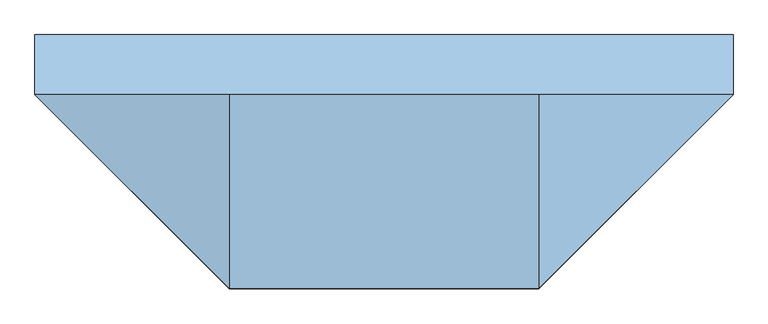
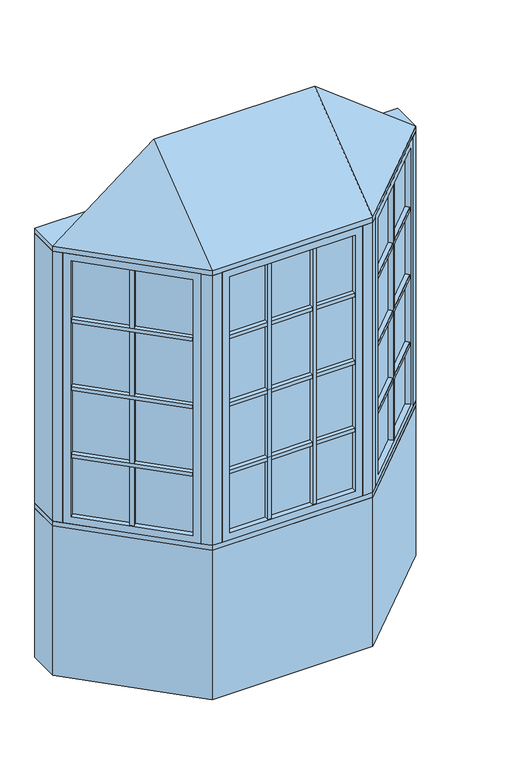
"""IFC4 building model written with IfcOpenShell, lengths in millimetres: window geometry, Pollard_Windows_Tudor Casement Bows and Bays : AML-BAY 45 AFR0514-08-600_GC."""

from ifc_helpers import new_model, si_unit, frame, origin, origin_with_axes, place, context, project, spatial, polyline, outline, extrude, faceted_brep, source, transform, mapped, element, save


def window_17699709(model_context):
    return source(origin(), model_context, "Body", "SolidModel", [
        extrude(outline(polyline([(453.0114193, -506.9608753), (437.4550701, -491.4045261), (815.116171, -113.7434252), (830.6725202, -129.2997743), (453.0114193, -506.9608753)])), frame((0.0, 0.0, 1490.998), z_axis=(0.0, 0.0, 1.0), x_axis=(1.0, 0.0, 0.0)), (0.0, 0.0, 1.0), 18.0),
        extrude(outline(polyline([(433.8629677, -487.8124236), (418.3066185, -472.2560744), (795.9677194, -94.5949735), (811.5240686, -110.1513227), (433.8629677, -487.8124236)])), frame((0.0, 0.0, 1490.998), z_axis=(0.0, 0.0, 1.0), x_axis=(1.0, 0.0, 0.0)), (0.0, 0.0, 1.0), 18.0),
        extrude(outline(polyline([(453.0114193, -506.9608753), (437.4550701, -491.4045261), (815.116171, -113.7434252), (830.6725202, -129.2997743), (453.0114193, -506.9608753)])), frame((0.0, 0.0, 1140.998), z_axis=(0.0, 0.0, 1.0), x_axis=(1.0, 0.0, 0.0)), (0.0, 0.0, 1.0), 18.0),
        extrude(outline(polyline([(433.8629677, -487.8124236), (418.3066185, -472.2560744), (795.9677194, -94.5949735), (811.5240686, -110.1513227), (433.8629677, -487.8124236)])), frame((0.0, 0.0, 1140.998), z_axis=(0.0, 0.0, 1.0), x_axis=(1.0, 0.0, 0.0)), (0.0, 0.0, 1.0), 18.0),
        extrude(outline(polyline([(453.0114193, -506.9608753), (437.4550701, -491.4045261), (815.116171, -113.7434252), (830.6725202, -129.2997743), (453.0114193, -506.9608753)])), frame((0.0, 0.0, 1490.998), z_axis=(0.0, 0.0, 1.0), x_axis=(1.0, 0.0, 0.0)), (0.0, 0.0, 1.0), 18.0),
        extrude(outline(polyline([(433.8629677, -487.8124236), (418.3066185, -472.2560744), (795.9677194, -94.5949735), (811.5240686, -110.1513227), (433.8629677, -487.8124236)])), frame((0.0, 0.0, 1490.998), z_axis=(0.0, 0.0, 1.0), x_axis=(1.0, 0.0, 0.0)), (0.0, 0.0, 1.0), 18.0),
        extrude(outline(polyline([(453.0114193, -506.9608753), (437.4550701, -491.4045261), (815.116171, -113.7434252), (830.6725202, -129.2997743), (453.0114193, -506.9608753)])), frame((0.0, 0.0, 1490.998), z_axis=(0.0, 0.0, 1.0), x_axis=(1.0, 0.0, 0.0)), (0.0, 0.0, 1.0), 18.0),
        extrude(outline(polyline([(433.8629677, -487.8124236), (418.3066185, -472.2560744), (795.9677194, -94.5949735), (811.5240686, -110.1513227), (433.8629677, -487.8124236)])), frame((0.0, 0.0, 1490.998), z_axis=(0.0, 0.0, 1.0), x_axis=(1.0, 0.0, 0.0)), (0.0, 0.0, 1.0), 18.0),
        extrude(outline(polyline([(453.0114193, -506.9608753), (437.4550701, -491.4045261), (815.116171, -113.7434252), (830.6725202, -129.2997743), (453.0114193, -506.9608753)])), frame((0.0, 0.0, 1840.998), z_axis=(0.0, 0.0, 1.0), x_axis=(1.0, 0.0, 0.0)), (0.0, 0.0, 1.0), 18.0),
        extrude(outline(polyline([(433.8629677, -487.8124236), (418.3066185, -472.2560744), (795.9677194, -94.5949735), (811.5240686, -110.1513227), (433.8629677, -487.8124236)])), frame((0.0, 0.0, 1840.998), z_axis=(0.0, 0.0, 1.0), x_axis=(1.0, 0.0, 0.0)), (0.0, 0.0, 1.0), 18.0),
        extrude(outline(polyline([(632.6495816, -296.2100146), (648.2059308, -311.7663638), (635.4780087, -324.4942858), (619.9216595, -308.9379366), (632.6495816, -296.2100146)])), frame((0.0, 0.0, 835.8628), z_axis=(0.0, 0.0, 1.0), x_axis=(1.0, 0.0, 0.0)), (0.0, 0.0, 1.0), 1328.2704),
        extrude(outline(polyline([(629.0574791, -292.6179121), (616.3295571, -305.3458342), (600.7732079, -289.789485), (613.50113, -277.0615629), (629.0574791, -292.6179121)])), frame((0.0, 0.0, 835.8628), z_axis=(0.0, 0.0, 1.0), x_axis=(1.0, 0.0, 0.0)), (0.0, 0.0, 1.0), 1328.2704),
        extrude(outline(polyline([(824.0964271, -104.763169), (428.474814, -500.3847822), (424.8827115, -496.7926797), (820.5043247, -101.1710666), (824.0964271, -104.763169)])), frame((0.0, 0.0, 823.1628), z_axis=(0.0, 0.0, 1.0), x_axis=(1.0, 0.0, 0.0)), (0.0, 0.0, 1.0), 1353.6704),
        faceted_brep([(815.116171, -113.7434252, 835.8628), (833.0766833, -131.7039374, 835.8628), (833.0766833, -131.7039374, 2164.1332), (815.116171, -113.7434252, 2164.1332), (820.5043247, -101.1710666, 823.1628), (824.0964271, -104.763169, 823.1628), (824.0964271, -104.763169, 2176.8332), (820.5043247, -101.1710666, 2176.8332), (793.5635563, -92.1908105, 835.8628), (811.5240686, -110.1513227, 835.8628), (811.5240686, -110.1513227, 2164.1332), (793.5635563, -92.1908105, 2164.1332), (858.4369265, -106.3436941, 799.998), (818.9237996, -66.8305672, 799.998), (818.9237996, -66.8305672, 2199.998), (858.4369265, -106.3436941, 2199.998), (455.4155823, -509.3650383, 2164.1332), (437.4550701, -491.4045261, 2164.1332), (428.474814, -500.3847822, 2176.8332), (424.8827115, -496.7926797, 2176.8332), (433.8629677, -487.8124236, 2164.1332), (415.9024554, -469.8519114, 2164.1332), (390.5422121, -495.2121547, 2199.998), (430.0553391, -534.7252816, 2199.998), (455.4155823, -509.3650383, 835.8628), (437.4550701, -491.4045261, 835.8628), (428.474814, -500.3847822, 823.1628), (424.8827115, -496.7926797, 823.1628), (433.8629677, -487.8124236, 835.8628), (415.9024554, -469.8519114, 835.8628), (390.5422121, -495.2121547, 799.998), (430.0553391, -534.7252816, 799.998)], [[[0, 1, 2, 3]], [[4, 5, 6, 7]], [[8, 9, 10, 11]], [[12, 13, 14, 15]], [[3, 2, 16, 17]], [[7, 6, 18, 19]], [[11, 10, 20, 21]], [[15, 14, 22, 23]], [[17, 16, 24, 25]], [[19, 18, 26, 27]], [[21, 20, 28, 29]], [[23, 22, 30, 31]], [[25, 24, 1, 0]], [[5, 26, 18, 6], [3, 17, 25, 0]], [[27, 26, 5, 4]], [[7, 19, 27, 4], [9, 28, 20, 10]], [[29, 28, 9, 8]], [[13, 30, 22, 14], [11, 21, 29, 8]], [[31, 30, 13, 12]], [[15, 23, 31, 12], [1, 24, 16, 2]]]),
        extrude(outline(polyline([(119.1785333, -544.6806207), (119.1785333, -566.6806207), (101.1785333, -566.6806207), (101.1785333, -544.6806207), (119.1785333, -544.6806207)])), frame((0.0, 0.0, 835.8628), z_axis=(0.0, 0.0, 1.0), x_axis=(1.0, 0.0, 0.0)), (0.0, 0.0, 1.0), 1328.2704),
        extrude(outline(polyline([(119.1785333, -539.6006207), (101.1785333, -539.6006207), (101.1785333, -517.6006207), (119.1785333, -517.6006207), (119.1785333, -539.6006207)])), frame((0.0, 0.0, 835.8628), z_axis=(0.0, 0.0, 1.0), x_axis=(1.0, 0.0, 0.0)), (0.0, 0.0, 1.0), 1328.2704),
        extrude(outline(polyline([(-101.1785333, -544.6806207), (-101.1785333, -566.6806207), (-119.1785333, -566.6806207), (-119.1785333, -544.6806207), (-101.1785333, -544.6806207)])), frame((0.0, 0.0, 835.8628), z_axis=(0.0, 0.0, 1.0), x_axis=(1.0, 0.0, 0.0)), (0.0, 0.0, 1.0), 1328.2704),
        extrude(outline(polyline([(-101.1785333, -539.6006207), (-119.1785333, -539.6006207), (-119.1785333, -517.6006207), (-101.1785333, -517.6006207), (-101.1785333, -539.6006207)])), frame((0.0, 0.0, 835.8628), z_axis=(0.0, 0.0, 1.0), x_axis=(1.0, 0.0, 0.0)), (0.0, 0.0, 1.0), 1328.2704),
        extrude(outline(polyline([(-308.8352, -566.6806207), (-308.8352, -544.6806207), (308.8352, -544.6806207), (308.8352, -566.6806207), (-308.8352, -566.6806207)])), frame((0.0, 0.0, 1140.998), z_axis=(0.0, 0.0, 1.0), x_axis=(1.0, 0.0, 0.0)), (0.0, 0.0, 1.0), 18.0),
        extrude(outline(polyline([(-308.8352, -539.6006207), (-308.8352, -517.6006207), (308.8352, -517.6006207), (308.8352, -539.6006207), (-308.8352, -539.6006207)])), frame((0.0, 0.0, 1140.998), z_axis=(0.0, 0.0, 1.0), x_axis=(1.0, 0.0, 0.0)), (0.0, 0.0, 1.0), 18.0),
        extrude(outline(polyline([(-308.8352, -566.6806207), (-308.8352, -544.6806207), (308.8352, -544.6806207), (308.8352, -566.6806207), (-308.8352, -566.6806207)])), frame((0.0, 0.0, 1490.998), z_axis=(0.0, 0.0, 1.0), x_axis=(1.0, 0.0, 0.0)), (0.0, 0.0, 1.0), 18.0),
        extrude(outline(polyline([(-308.8352, -539.6006207), (-308.8352, -517.6006207), (308.8352, -517.6006207), (308.8352, -539.6006207), (-308.8352, -539.6006207)])), frame((0.0, 0.0, 1490.998), z_axis=(0.0, 0.0, 1.0), x_axis=(1.0, 0.0, 0.0)), (0.0, 0.0, 1.0), 18.0),
        extrude(outline(polyline([(-308.8352, -566.6806207), (-308.8352, -544.6806207), (308.8352, -544.6806207), (308.8352, -566.6806207), (-308.8352, -566.6806207)])), frame((0.0, 0.0, 1490.998), z_axis=(0.0, 0.0, 1.0), x_axis=(1.0, 0.0, 0.0)), (0.0, 0.0, 1.0), 18.0),
        extrude(outline(polyline([(-308.8352, -539.6006207), (-308.8352, -517.6006207), (308.8352, -517.6006207), (308.8352, -539.6006207), (-308.8352, -539.6006207)])), frame((0.0, 0.0, 1490.998), z_axis=(0.0, 0.0, 1.0), x_axis=(1.0, 0.0, 0.0)), (0.0, 0.0, 1.0), 18.0),
        extrude(outline(polyline([(-308.8352, -566.6806207), (-308.8352, -544.6806207), (308.8352, -544.6806207), (308.8352, -566.6806207), (-308.8352, -566.6806207)])), frame((0.0, 0.0, 1490.998), z_axis=(0.0, 0.0, 1.0), x_axis=(1.0, 0.0, 0.0)), (0.0, 0.0, 1.0), 18.0),
        extrude(outline(polyline([(-308.8352, -539.6006207), (-308.8352, -517.6006207), (308.8352, -517.6006207), (308.8352, -539.6006207), (-308.8352, -539.6006207)])), frame((0.0, 0.0, 1490.998), z_axis=(0.0, 0.0, 1.0), x_axis=(1.0, 0.0, 0.0)), (0.0, 0.0, 1.0), 18.0),
        extrude(outline(polyline([(-830.6725202, -129.2997743), (-815.116171, -113.7434252), (-437.4550701, -491.4045261), (-453.0114193, -506.9608753), (-830.6725202, -129.2997743)])), frame((0.0, 0.0, 1140.998), z_axis=(0.0, 0.0, 1.0), x_axis=(1.0, 0.0, 0.0)), (0.0, 0.0, 1.0), 18.0),
        extrude(outline(polyline([(-811.5240686, -110.1513227), (-795.9677194, -94.5949735), (-418.3066185, -472.2560744), (-433.8629677, -487.8124236), (-811.5240686, -110.1513227)])), frame((0.0, 0.0, 1140.998), z_axis=(0.0, 0.0, 1.0), x_axis=(1.0, 0.0, 0.0)), (0.0, 0.0, 1.0), 18.0),
        extrude(outline(polyline([(-830.6725202, -129.2997743), (-815.116171, -113.7434252), (-437.4550701, -491.4045261), (-453.0114193, -506.9608753), (-830.6725202, -129.2997743)])), frame((0.0, 0.0, 1490.998), z_axis=(0.0, 0.0, 1.0), x_axis=(1.0, 0.0, 0.0)), (0.0, 0.0, 1.0), 18.0),
        extrude(outline(polyline([(-811.5240686, -110.1513227), (-795.9677194, -94.5949735), (-418.3066185, -472.2560744), (-433.8629677, -487.8124236), (-811.5240686, -110.1513227)])), frame((0.0, 0.0, 1490.998), z_axis=(0.0, 0.0, 1.0), x_axis=(1.0, 0.0, 0.0)), (0.0, 0.0, 1.0), 18.0),
        extrude(outline(polyline([(-830.6725202, -129.2997743), (-815.116171, -113.7434252), (-437.4550701, -491.4045261), (-453.0114193, -506.9608753), (-830.6725202, -129.2997743)])), frame((0.0, 0.0, 1490.998), z_axis=(0.0, 0.0, 1.0), x_axis=(1.0, 0.0, 0.0)), (0.0, 0.0, 1.0), 18.0),
        extrude(outline(polyline([(-811.5240686, -110.1513227), (-795.9677194, -94.5949735), (-418.3066185, -472.2560744), (-433.8629677, -487.8124236), (-811.5240686, -110.1513227)])), frame((0.0, 0.0, 1490.998), z_axis=(0.0, 0.0, 1.0), x_axis=(1.0, 0.0, 0.0)), (0.0, 0.0, 1.0), 18.0),
        extrude(outline(polyline([(-830.6725202, -129.2997743), (-815.116171, -113.7434252), (-437.4550701, -491.4045261), (-453.0114193, -506.9608753), (-830.6725202, -129.2997743)])), frame((0.0, 0.0, 1490.998), z_axis=(0.0, 0.0, 1.0), x_axis=(1.0, 0.0, 0.0)), (0.0, 0.0, 1.0), 18.0),
        extrude(outline(polyline([(-811.5240686, -110.1513227), (-795.9677194, -94.5949735), (-418.3066185, -472.2560744), (-433.8629677, -487.8124236), (-811.5240686, -110.1513227)])), frame((0.0, 0.0, 1490.998), z_axis=(0.0, 0.0, 1.0), x_axis=(1.0, 0.0, 0.0)), (0.0, 0.0, 1.0), 18.0),
        extrude(outline(polyline([(-830.6725202, -129.2997743), (-815.116171, -113.7434252), (-437.4550701, -491.4045261), (-453.0114193, -506.9608753), (-830.6725202, -129.2997743)])), frame((0.0, 0.0, 1840.998), z_axis=(0.0, 0.0, 1.0), x_axis=(1.0, 0.0, 0.0)), (0.0, 0.0, 1.0), 18.0),
        extrude(outline(polyline([(-811.5240686, -110.1513227), (-795.9677194, -94.5949735), (-418.3066185, -472.2560744), (-433.8629677, -487.8124236), (-811.5240686, -110.1513227)])), frame((0.0, 0.0, 1840.998), z_axis=(0.0, 0.0, 1.0), x_axis=(1.0, 0.0, 0.0)), (0.0, 0.0, 1.0), 18.0),
        extrude(outline(polyline([(-308.8352, -566.6806207), (-308.8352, -544.6806207), (308.8352, -544.6806207), (308.8352, -566.6806207), (-308.8352, -566.6806207)])), frame((0.0, 0.0, 1840.998), z_axis=(0.0, 0.0, 1.0), x_axis=(1.0, 0.0, 0.0)), (0.0, 0.0, 1.0), 18.0),
        extrude(outline(polyline([(-308.8352, -539.6006207), (-308.8352, -517.6006207), (308.8352, -517.6006207), (308.8352, -539.6006207), (-308.8352, -539.6006207)])), frame((0.0, 0.0, 1840.998), z_axis=(0.0, 0.0, 1.0), x_axis=(1.0, 0.0, 0.0)), (0.0, 0.0, 1.0), 18.0),
        extrude(outline(polyline([(-619.9216595, -308.9379366), (-635.4780087, -324.4942858), (-648.2059308, -311.7663638), (-632.6495816, -296.2100146), (-619.9216595, -308.9379366)])), frame((0.0, 0.0, 835.8628), z_axis=(0.0, 0.0, 1.0), x_axis=(1.0, 0.0, 0.0)), (0.0, 0.0, 1.0), 1328.2704),
        extrude(outline(polyline([(-616.3295571, -305.3458342), (-629.0574791, -292.6179121), (-613.50113, -277.0615629), (-600.7732079, -289.789485), (-616.3295571, -305.3458342)])), frame((0.0, 0.0, 835.8628), z_axis=(0.0, 0.0, 1.0), x_axis=(1.0, 0.0, 0.0)), (0.0, 0.0, 1.0), 1328.2704),
        extrude(outline(polyline([(-428.474814, -500.3847822), (-824.0964271, -104.763169), (-820.5043247, -101.1710666), (-424.8827115, -496.7926797), (-428.474814, -500.3847822)])), frame((0.0, 0.0, 823.1628), z_axis=(0.0, 0.0, 1.0), x_axis=(1.0, 0.0, 0.0)), (0.0, 0.0, 1.0), 1353.6704),
        faceted_brep([(-433.8629677, -487.8124236, 2164.1332), (-415.9024554, -469.8519114, 2164.1332), (-415.9024554, -469.8519114, 835.8628), (-433.8629677, -487.8124236, 835.8628), (-428.474814, -500.3847822, 2176.8332), (-424.8827115, -496.7926797, 2176.8332), (-424.8827115, -496.7926797, 823.1628), (-428.474814, -500.3847822, 823.1628), (-455.4155823, -509.3650383, 2164.1332), (-437.4550701, -491.4045261, 2164.1332), (-437.4550701, -491.4045261, 835.8628), (-455.4155823, -509.3650383, 835.8628), (-390.5422121, -495.2121547, 2199.998), (-430.0553391, -534.7252816, 2199.998), (-430.0553391, -534.7252816, 799.998), (-390.5422121, -495.2121547, 799.998), (-793.5635563, -92.1908105, 835.8628), (-811.5240686, -110.1513227, 835.8628), (-820.5043247, -101.1710666, 823.1628), (-824.0964271, -104.763169, 823.1628), (-815.116171, -113.7434252, 835.8628), (-833.0766833, -131.7039374, 835.8628), (-858.4369265, -106.3436941, 799.998), (-818.9237996, -66.8305672, 799.998), (-793.5635563, -92.1908105, 2164.1332), (-811.5240686, -110.1513227, 2164.1332), (-820.5043247, -101.1710666, 2176.8332), (-824.0964271, -104.763169, 2176.8332), (-815.116171, -113.7434252, 2164.1332), (-833.0766833, -131.7039374, 2164.1332), (-858.4369265, -106.3436941, 2199.998), (-818.9237996, -66.8305672, 2199.998)], [[[0, 1, 2, 3]], [[4, 5, 6, 7]], [[8, 9, 10, 11]], [[12, 13, 14, 15]], [[3, 2, 16, 17]], [[7, 6, 18, 19]], [[11, 10, 20, 21]], [[15, 14, 22, 23]], [[17, 16, 24, 25]], [[19, 18, 26, 27]], [[21, 20, 28, 29]], [[23, 22, 30, 31]], [[15, 23, 31, 12], [1, 24, 16, 2]], [[25, 24, 1, 0]], [[5, 26, 18, 6], [3, 17, 25, 0]], [[27, 26, 5, 4]], [[7, 19, 27, 4], [9, 28, 20, 10]], [[29, 28, 9, 8]], [[13, 30, 22, 14], [11, 21, 29, 8]], [[31, 30, 13, 12]]]),
        extrude(outline(polyline([(321.5352, -544.6806207), (-321.5352, -544.6806207), (-321.5352, -539.6006207), (321.5352, -539.6006207), (321.5352, -544.6806207)])), frame((0.0, 0.0, 823.1628), z_axis=(0.0, 0.0, 1.0), x_axis=(1.0, 0.0, 0.0)), (0.0, 0.0, 1.0), 1353.6704),
        faceted_brep([(308.8352, -544.6806207, 835.8628), (308.8352, -570.0806207, 835.8628), (308.8352, -570.0806207, 2164.1332), (308.8352, -544.6806207, 2164.1332), (321.5352, -539.6006207, 823.1628), (321.5352, -544.6806207, 823.1628), (321.5352, -544.6806207, 2176.8332), (321.5352, -539.6006207, 2176.8332), (308.8352, -514.2006207, 835.8628), (308.8352, -539.6006207, 835.8628), (308.8352, -539.6006207, 2164.1332), (308.8352, -514.2006207, 2164.1332), (344.7, -570.0806207, 799.998), (344.7, -514.2006207, 799.998), (344.7, -514.2006207, 2199.998), (344.7, -570.0806207, 2199.998), (-308.8352, -570.0806207, 2164.1332), (-308.8352, -544.6806207, 2164.1332), (-321.5352, -544.6806207, 2176.8332), (-321.5352, -539.6006207, 2176.8332), (-308.8352, -539.6006207, 2164.1332), (-308.8352, -514.2006207, 2164.1332), (-344.7, -514.2006207, 2199.998), (-344.7, -570.0806207, 2199.998), (-308.8352, -570.0806207, 835.8628), (-308.8352, -544.6806207, 835.8628), (-321.5352, -544.6806207, 823.1628), (-321.5352, -539.6006207, 823.1628), (-308.8352, -539.6006207, 835.8628), (-308.8352, -514.2006207, 835.8628), (-344.7, -514.2006207, 799.998), (-344.7, -570.0806207, 799.998)], [[[0, 1, 2, 3]], [[4, 5, 6, 7]], [[8, 9, 10, 11]], [[12, 13, 14, 15]], [[3, 2, 16, 17]], [[7, 6, 18, 19]], [[11, 10, 20, 21]], [[15, 14, 22, 23]], [[17, 16, 24, 25]], [[19, 18, 26, 27]], [[21, 20, 28, 29]], [[23, 22, 30, 31]], [[15, 23, 31, 12], [1, 24, 16, 2]], [[25, 24, 1, 0]], [[5, 26, 18, 6], [3, 17, 25, 0]], [[27, 26, 5, 4]], [[7, 19, 27, 4], [9, 28, 20, 10]], [[29, 28, 9, 8]], [[13, 30, 22, 14], [11, 21, 29, 8]], [[31, 30, 13, 12]]]),
        faceted_brep([(890.0, -74.7806207, 2225.398), (394.7, -570.0806207, 2225.398), (-394.7, -570.0806207, 2225.398), (-890.0, -74.7806207, 2225.398), (-394.7, -74.7806207, 2606.398), (394.7, -74.7806207, 2606.398)], [[[0, 1, 2, 3]], [[3, 2, 4]], [[2, 1, 5, 4]], [[1, 0, 5]], [[0, 3, 4, 5]]]),
        extrude(outline(polyline([(-890.0, 77.6193793), (890.0, 77.6193793), (890.0, -74.7806207), (394.7, -570.0806207), (-394.7, -570.0806207), (-890.0, -74.7806207), (-890.0, 77.6193793)])), frame((0.0, 0.0, 2199.998), z_axis=(0.0, 0.0, 1.0), x_axis=(1.0, 0.0, 0.0)), (0.0, 0.0, 1.0), 25.4),
        extrude(outline(polyline([(-890.0, -74.7806207), (-890.0, 77.6193793), (-826.8738531, 77.6193793), (-826.8738531, -74.7806207), (-858.4369265, -106.3436941), (-890.0, -74.7806207)])), frame((0.0, 0.0, 799.998), z_axis=(0.0, 0.0, 1.0), x_axis=(1.0, 0.0, 0.0)), (0.0, 0.0, 1.0), 1400.0),
        extrude(outline(polyline([(890.0, 77.6193793), (890.0, -74.7806207), (858.4369265, -106.3436941), (826.8738531, -74.7806207), (826.8738531, 77.6193793), (890.0, 77.6193793)])), frame((0.0, 0.0, 799.998), z_axis=(0.0, 0.0, 1.0), x_axis=(1.0, 0.0, 0.0)), (0.0, 0.0, 1.0), 1400.0),
        extrude(outline(polyline([(394.7, -570.0806207), (344.7, -570.0806207), (344.7, -520.0806207), (373.9893219, -520.0806207), (394.7, -499.3699425), (430.0553391, -534.7252816), (394.7, -570.0806207)])), frame((0.0, 0.0, 799.998), z_axis=(0.0, 0.0, 1.0), x_axis=(1.0, 0.0, 0.0)), (0.0, 0.0, 1.0), 1400.0),
        extrude(outline(polyline([(-394.7, -570.0806207), (-430.0553391, -534.7252816), (-394.7, -499.3699425), (-373.9893219, -520.0806207), (-344.7, -520.0806207), (-344.7, -570.0806207), (-394.7, -570.0806207)])), frame((0.0, 0.0, 799.998), z_axis=(0.0, 0.0, 1.0), x_axis=(1.0, 0.0, 0.0)), (0.0, 0.0, 1.0), 1400.0),
        extrude(outline(polyline([(-394.7, -570.0806207), (-890.0, -74.7806207), (-890.0, 77.6193793), (-826.8738531, 77.6193793), (-331.5738531, -417.6806207), (331.5738531, -417.6806207), (826.8738531, 77.6193793), (890.0, 77.6193793), (890.0, -74.7806207), (394.7, -570.0806207), (-394.7, -570.0806207)])), frame((0.0, 0.0, 774.598), z_axis=(0.0, 0.0, 1.0), x_axis=(1.0, 0.0, 0.0)), (0.0, 0.0, 1.0), 25.4),
        extrude(outline(polyline([(-890.0, -74.7806207), (-890.0, 77.6193793), (-826.8738531, 77.6193793), (-331.5738531, -417.6806207), (331.5738531, -417.6806207), (826.8738531, 77.6193793), (890.0, 77.6193793), (890.0, -74.7806207), (394.7, -570.0806207), (-394.7, -570.0806207), (-890.0, -74.7806207)])), origin_with_axes(), (0.0, 0.0, 1.0), 774.598),
    ])


if __name__ == "__main__":
    model = new_model("IFC4")
    model_context = context("Model", 3, world=origin())
    ifc_project = project(units=[si_unit("LENGTHUNIT", "METRE", prefix="MILLI")], contexts=[model_context])
    site = spatial("IfcSite", under=ifc_project)
    building = spatial("IfcBuilding", under=site)
    placement = place(None, origin())
    window_shape = window_17699709(model_context)
    element("IfcWindow", 1, ObjectType="Pollard_Windows_Tudor Casement Bows and Bays : AML-BAY 45 AFR0514-08-600_GC", at=placement, inside=building, context=model_context, shape_type="MappedRepresentation", body=[
        mapped(window_shape, transform((0.0, 0.0, 0.0), x_axis=(1.0, 0.0, 0.0), y_axis=(0.0, 1.0, 0.0), z_axis=(0.0, 0.0, 1.0))),
    ])
    save(model, "model.ifc")
